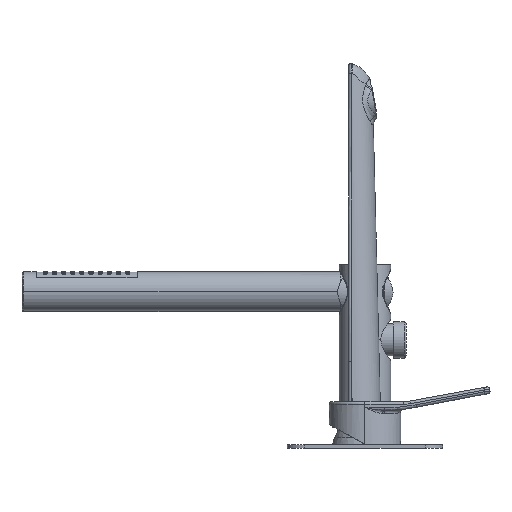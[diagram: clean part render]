
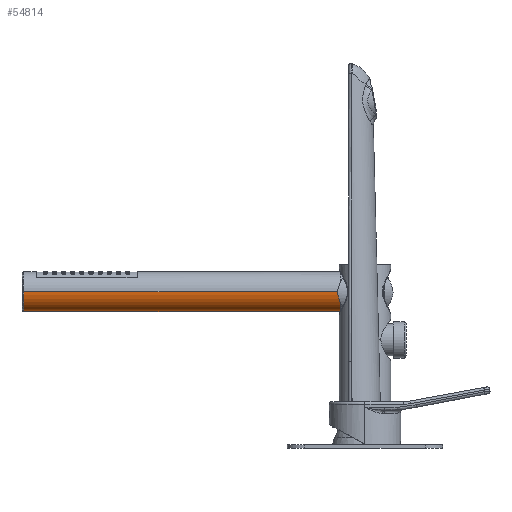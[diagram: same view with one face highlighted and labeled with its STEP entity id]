
A CAD part, left-side view. The second image highlights one B-rep face of the part: STEP entity #54814.
In plain terms, the highlighted cylindrical face has radius 11.5 mm (diameter 23 mm), a partial arc.
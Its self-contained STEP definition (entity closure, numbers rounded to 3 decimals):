
#1134 = ORIENTED_EDGE ( 'NONE', *, *, #23577, .T. ) ;
#4228 = EDGE_LOOP ( 'NONE', ( #12066, #40092, #1134, #30384 ) ) ;
#11251 = FACE_OUTER_BOUND ( 'NONE', #4228, .T. ) ;
#12066 = ORIENTED_EDGE ( 'NONE', *, *, #35396, .F. ) ;
#12987 = AXIS2_PLACEMENT_3D ( 'NONE', #20478, #49064, #15739 ) ;
#13872 = EDGE_CURVE ( 'NONE', #16271, #59752, #35089, .T. ) ;
#14446 = DIRECTION ( 'NONE',  ( 0., 1., 0. ) ) ;
#15178 = AXIS2_PLACEMENT_3D ( 'NONE', #32717, #51864, #37100 ) ;
#15225 = CARTESIAN_POINT ( 'NONE',  ( 322., 242.714, 90.7 ) ) ;
#15739 = DIRECTION ( 'NONE',  ( -1., 0., 0. ) ) ;
#15944 = DIRECTION ( 'NONE',  ( 0., 1., 0. ) ) ;
#16271 = VERTEX_POINT ( 'NONE', #59948 ) ;
#18859 = VERTEX_POINT ( 'NONE', #46385 ) ;
#20478 = CARTESIAN_POINT ( 'NONE',  ( 310.5, 242.714, 90.7 ) ) ;
#21143 = LINE ( 'NONE', #36227, #36189 ) ;
#21343 = CARTESIAN_POINT ( 'NONE',  ( 322., 59.214, 90.7 ) ) ;
#23577 = EDGE_CURVE ( 'NONE', #18859, #16271, #47764, .T. ) ;
#23882 = CARTESIAN_POINT ( 'NONE',  ( 299., 196.714, 90.7 ) ) ;
#28252 = CIRCLE ( 'NONE', #15178, 11.5 ) ;
#29048 = VECTOR ( 'NONE', #14446, 1000. ) ;
#30384 = ORIENTED_EDGE ( 'NONE', *, *, #13872, .T. ) ;
#32717 = CARTESIAN_POINT ( 'NONE',  ( 310.5, 59.214, 90.7 ) ) ;
#35089 = CIRCLE ( 'NONE', #12987, 11.5 ) ;
#35142 = DIRECTION ( 'NONE',  ( -1., 0., 0. ) ) ;
#35396 = EDGE_CURVE ( 'NONE', #39725, #59752, #21143, .T. ) ;
#36189 = VECTOR ( 'NONE', #41567, 1000. ) ;
#36227 = CARTESIAN_POINT ( 'NONE',  ( 322., 196.714, 90.7 ) ) ;
#37100 = DIRECTION ( 'NONE',  ( -1., 0., 0. ) ) ;
#39725 = VERTEX_POINT ( 'NONE', #21343 ) ;
#40092 = ORIENTED_EDGE ( 'NONE', *, *, #49925, .T. ) ;
#41567 = DIRECTION ( 'NONE',  ( 0., 1., 0. ) ) ;
#46385 = CARTESIAN_POINT ( 'NONE',  ( 299., 59.214, 90.7 ) ) ;
#47764 = LINE ( 'NONE', #23882, #29048 ) ;
#49064 = DIRECTION ( 'NONE',  ( 0., -1., 0. ) ) ;
#49925 = EDGE_CURVE ( 'NONE', #39725, #18859, #28252, .T. ) ;
#51864 = DIRECTION ( 'NONE',  ( 0., 1., 0. ) ) ;
#54814 = ADVANCED_FACE ( 'NONE', ( #11251 ), #59015, .T. ) ;
#55653 = AXIS2_PLACEMENT_3D ( 'NONE', #59326, #15944, #35142 ) ;
#59015 = CYLINDRICAL_SURFACE ( 'NONE', #55653, 11.5 ) ;
#59326 = CARTESIAN_POINT ( 'NONE',  ( 310.5, 196.714, 90.7 ) ) ;
#59752 = VERTEX_POINT ( 'NONE', #15225 ) ;
#59948 = CARTESIAN_POINT ( 'NONE',  ( 299., 242.714, 90.7 ) ) ;
